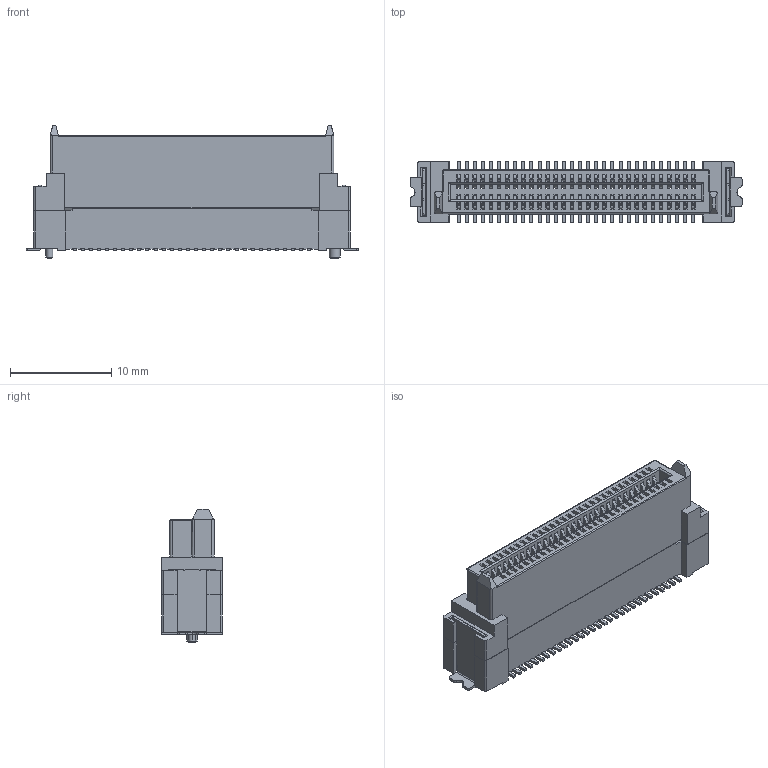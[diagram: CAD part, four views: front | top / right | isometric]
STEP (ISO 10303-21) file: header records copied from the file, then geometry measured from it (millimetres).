
FILE_DESCRIPTION(('CATIA V5 STEP Exchange'),'2;1');
FILE_NAME('F:\黄富鸿\板对板\PBB08D\母座\H11.4\HC-PBB08D-1-60-F-H11.4-XX-R-P-06 (BTB0.8 单槽 D型母座 立贴 带柱 编带)-HCTL.stp','2026-02-04T10:05:18+00:00',('none'),('none'),'CATIA Version 5 Release 20 GA (IN-10)','CATIA V5 STEP AP203','none');
FILE_SCHEMA(('CONFIG_CONTROL_DESIGN'));
Products named in the file (1): Part1
Bounding box: 32.8 x 6 x 13.15 mm (x, y, z)
Volume: 932.3 mm3; surface area: 4285.8 mm2
Topology: 64 solids, 64 shells, 3169 faces, 9400 edges, 6180 vertices
Faces by surface type: plane 2389, cylinder 774, cone 4, torus 2
Entity records: 98271 total; most frequent: ORIENTED_EDGE 18800, CARTESIAN_POINT 17727, DIRECTION 13476, EDGE_CURVE 9400, VECTOR 7818, LINE 7818, VERTEX_POINT 6180, AXIS2_PLACEMENT_3D 3601
